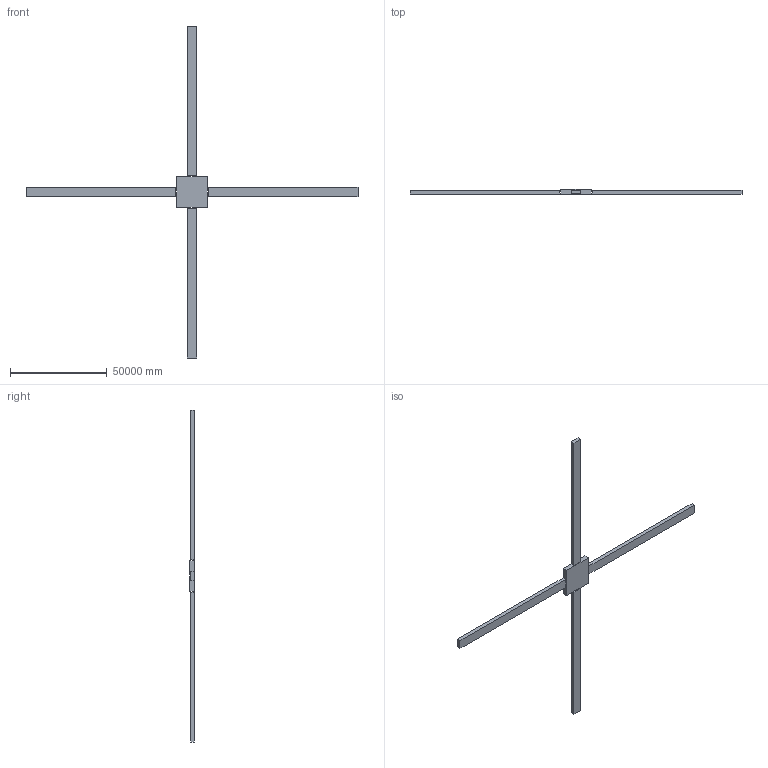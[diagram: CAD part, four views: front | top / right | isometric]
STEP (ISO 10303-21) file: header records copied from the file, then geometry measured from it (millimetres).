
FILE_DESCRIPTION (( 'STEP AP203' ), '1' );
FILE_NAME ('GEO_03_Structural_Spoke_Corridors.STEP', '2026-10-29T17:29:17', ( 'user' ), ( '' ), 'SwSTEP 2.0', 'SolidWorks 2026', '' );
FILE_SCHEMA (( 'CONFIG_CONTROL_DESIGN' ));
Length unit declared in the file: inch
Products named in the file (1): GEO_03_Structural_Spoke_Corridors
Bounding box: 172000 x 2500 x 172000 mm (x, y, z)
Volume: 3740000000000 mm3; surface area: 5092000000 mm2
Topology: 5 solids, 5 shells, 30 faces, 60 edges, 40 vertices
Faces by surface type: plane 30
Entity records: 835 total; most frequent: CARTESIAN_POINT 131, DIRECTION 122, ORIENTED_EDGE 120, VECTOR 60, EDGE_CURVE 60, LINE 60, VERTEX_POINT 40, AXIS2_PLACEMENT_3D 31
